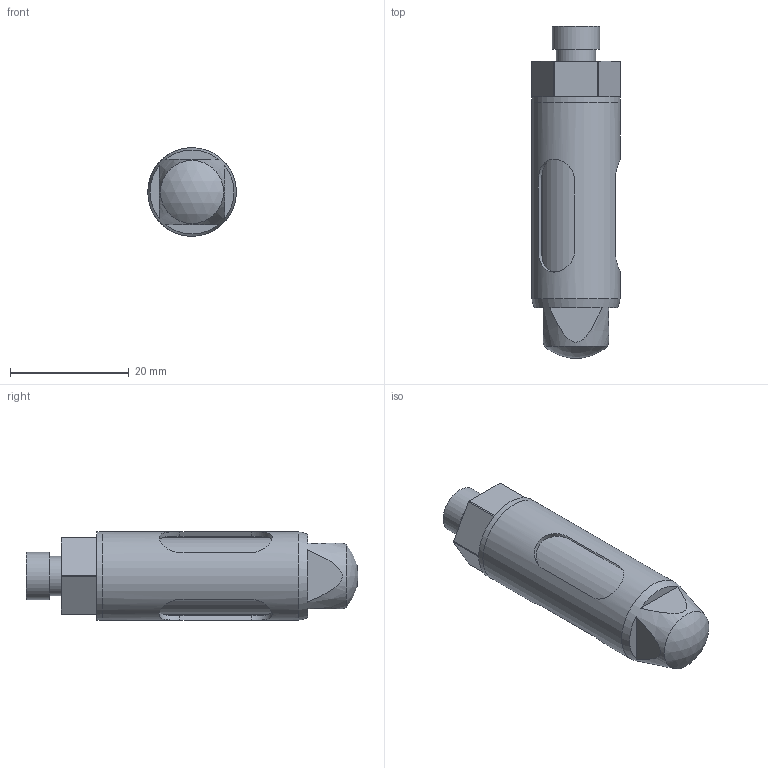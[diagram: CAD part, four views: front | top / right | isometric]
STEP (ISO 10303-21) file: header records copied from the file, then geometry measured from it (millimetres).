
FILE_DESCRIPTION(/* description */ (''),/* implementation_level */ '2;1');
FILE_NAME(/* name */ 'T:\Anwender\Praktikant\Tobias Könemund\Innengreifer\Parametrisch\G-GI015_vereinfacht.stp',/* time_stamp */ '2015-10-30T08:19:42+01:00',/* author */ ('Praktikant'),/* organization */ ('GRIP GmbH'),/* preprocessor_version */ 'ST-DEVELOPER v15.2',/* originating_system */ 'Autodesk Inventor 2014',/* authorisation */ '');
FILE_SCHEMA (('AUTOMOTIVE_DESIGN { 1 0 10303 214 3 1 1 }'));
Length unit declared in the file: millimetre
Products named in the file (3): G-GI015-2.1-1 Dorn_vereinfacht-06; G-GI015-1.1-1 Hülse_vereinfacht-13; Baugruppe_vereinfacht
Bounding box: 14.9 x 55.84 x 14.9 mm (x, y, z)
Volume: 7360.8 mm3; surface area: 5137.4 mm2
Topology: 2 solids, 2 shells, 49 faces, 115 edges, 76 vertices
Faces by surface type: plane 33, cylinder 13, cone 2, sphere 1
Full cylindrical faces by diameter (mm): 5 x1, 6.6 x1, 8 x1, 12.9 x1, 13.3 x1, 14.9 x2
Entity records: 1554 total; most frequent: CARTESIAN_POINT 434, DIRECTION 220, ORIENTED_EDGE 196, EDGE_CURVE 98, AXIS2_PLACEMENT_3D 84, EDGE_LOOP 72, VERTEX_POINT 70, LINE 52
